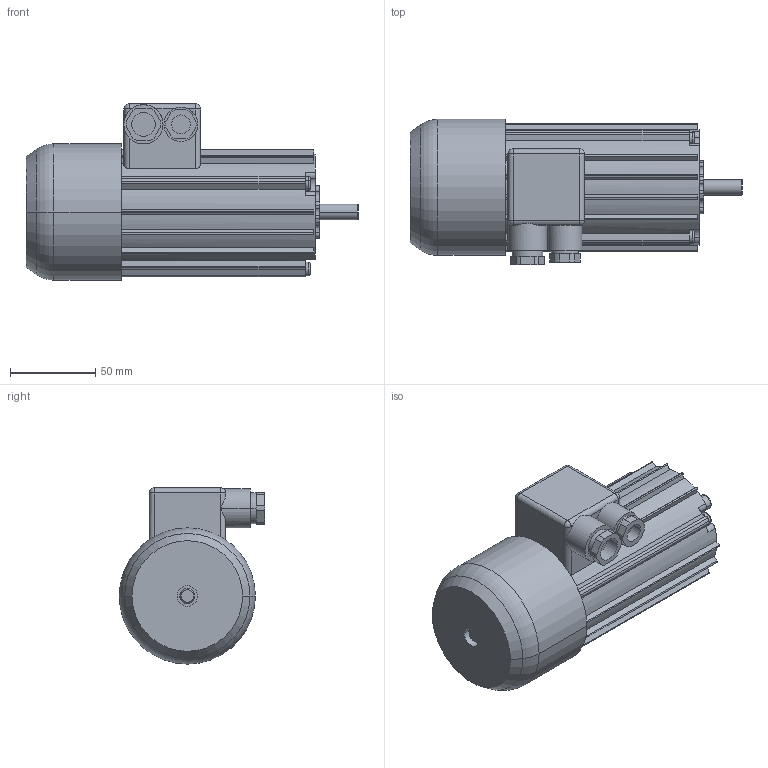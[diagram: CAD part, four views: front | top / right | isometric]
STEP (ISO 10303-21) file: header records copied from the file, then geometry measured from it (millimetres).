
FILE_DESCRIPTION((''),'2;1');
FILE_NAME('KDDR62_0X80_AS9X25_FL32','2005-11-15T',('thomas.amann'),(''),'PRO/ENGINEER BY PARAMETRIC TECHNOLOGY CORPORATION, 2003490','PRO/ENGINEER BY PARAMETRIC TECHNOLOGY CORPORATION, 2003490','');
FILE_SCHEMA(('AUTOMOTIVE_DESIGN_CC2 { 1 2 10303 214 -1 1 5 2 }'));
Length unit declared in the file: millimetre
Products named in the file (1): KDDR62_0X80_AS9X25_FL32
Bounding box: 195 x 85.5 x 103.5 mm (x, y, z)
Volume: 776892.6 mm3; surface area: 67493.1 mm2
Topology: 1 solids, 9 shells, 338 faces, 877 edges, 576 vertices
Faces by surface type: cylinder 196, plane 122, cone 8, torus 8, sphere 4
Entity records: 10791 total; most frequent: DIRECTION 2015, CARTESIAN_POINT 1869, ORIENTED_EDGE 1722, EDGE_CURVE 877, AXIS2_PLACEMENT_3D 809, VERTEX_POINT 576, CIRCLE 470, VECTOR 397
